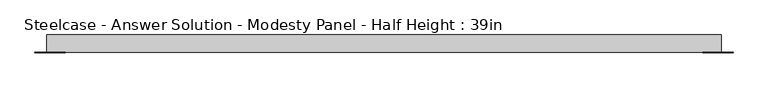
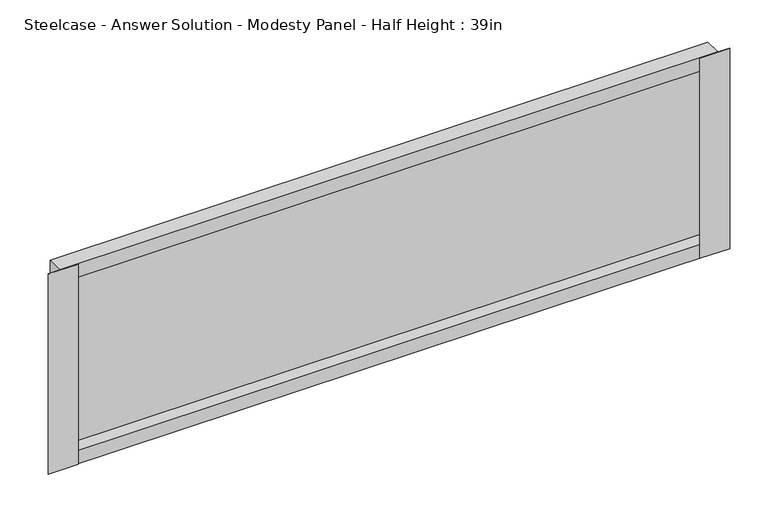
"""IFC4 building model written with IfcOpenShell, lengths in millimetres: furniture geometry, Steelcase - Answer Solution - Modesty Panel - Half Height : 39in."""

from ifc_helpers import new_model, si_unit, frame, origin, place, context, project, spatial, polyline, outline, extrude, faceted_brep, source, transform, mapped, element, save


def steelcase_answer_solution_modesty_panel_half_height_39in_644f7c5c(model_context):
    return source(origin(), model_context, "Body", "SolidModel", [
        extrude(outline(polyline([(1534.1400478, -14.2668826), (1534.1400478, -15.0593624), (1489.7248254, -15.0593624), (1489.7248254, -14.2668826), (1534.1400478, -14.2668826)])), frame((0.0, 0.0, 17.653), z_axis=(0.0, 0.0, 1.0), x_axis=(1.0, 0.0, 0.0)), (0.0, 0.0, 1.0), 317.5),
        extrude(outline(polyline([(556.9673392, -14.2668826), (556.9673392, -15.0593624), (512.5520826, -15.0593624), (512.5520826, -14.2668826), (556.9673392, -14.2668826)])), frame((0.0, 0.0, 17.653), z_axis=(0.0, 0.0, 1.0), x_axis=(1.0, 0.0, 0.0)), (0.0, 0.0, 1.0), 317.5),
        faceted_brep([(530.0780827, 10.9045177, 17.653), (530.0780827, -14.2668826, 17.653), (530.0780827, -14.2668826, 335.153), (530.0780827, 10.9045177, 335.153), (1516.6140827, -14.2668826, 17.653), (1516.6140827, 10.9045177, 17.653), (1516.6140827, 10.9045177, 335.153), (1516.6140827, -14.2668826, 335.153), (1515.8216165, 4.7831174, 39.243), (530.8705628, 4.7831174, 39.243), (530.8705628, -14.2668826, 39.243), (1515.8216165, -14.2668826, 39.243), (530.8705628, -14.2668826, 313.563), (1515.8216165, -14.2668826, 313.563), (530.8705628, 4.7831174, 313.563), (1515.8216165, 4.7831174, 313.563)], [[[0, 1, 2, 3]], [[4, 5, 6, 7]], [[8, 9, 10, 11]], [[0, 3, 6, 5]], [[4, 1, 0, 5]], [[2, 1, 4, 7], [10, 12, 13, 11]], [[3, 2, 7, 6]], [[14, 15, 13, 12]], [[9, 8, 15, 14]], [[12, 10, 9, 14]], [[11, 13, 15, 8]]]),
    ])


if __name__ == "__main__":
    model = new_model("IFC4")
    model_context = context("Model", 3, world=origin())
    ifc_project = project(units=[si_unit("LENGTHUNIT", "METRE", prefix="MILLI")], contexts=[model_context])
    site = spatial("IfcSite", under=ifc_project)
    building = spatial("IfcBuilding", under=site)
    placement = place(None, origin())
    steelcase_answer_solution_modesty_panel_half_height_39in_shape = steelcase_answer_solution_modesty_panel_half_height_39in_644f7c5c(model_context)
    element("IfcFurniture", 1, ObjectType="Steelcase - Answer Solution - Modesty Panel - Half Height : 39in", at=placement, inside=building, context=model_context, shape_type="MappedRepresentation", body=[
        mapped(steelcase_answer_solution_modesty_panel_half_height_39in_shape, transform((0.0, 0.0, 0.0), x_axis=(1.0, 0.0, 0.0), y_axis=(0.0, 1.0, 0.0), z_axis=(0.0, 0.0, 1.0))),
    ])
    save(model, "model.ifc")
